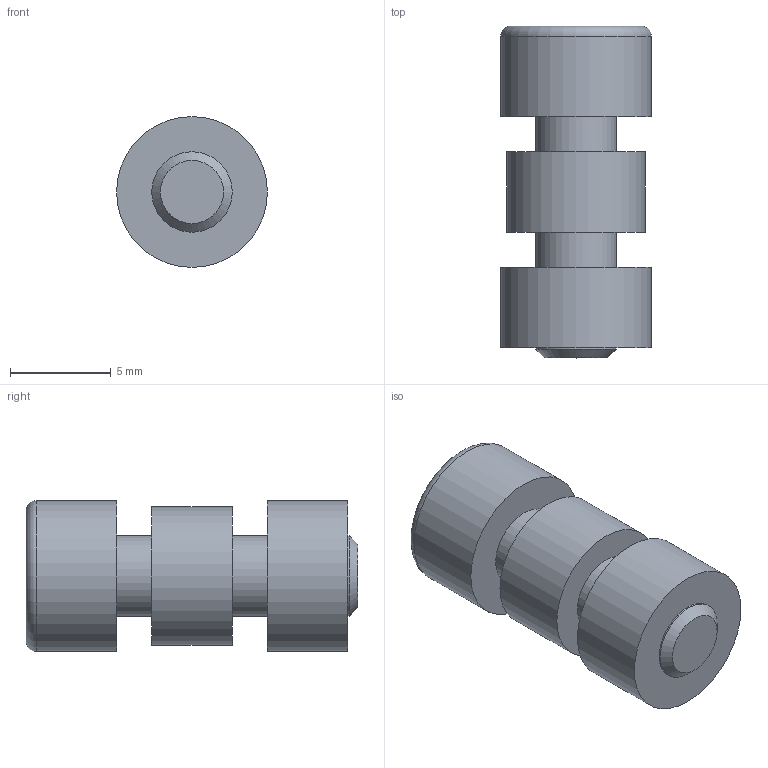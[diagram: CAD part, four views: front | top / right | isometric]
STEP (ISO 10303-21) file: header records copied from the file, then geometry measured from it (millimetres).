
FILE_DESCRIPTION( ( 'STEP AP203' ), '1' );
FILE_NAME( 'C:/Temp/Ganter_Step_05_03_2020/data/3_7/511_1/gn_511_1_s/Swivel clamp mounting GN 511.1-M4-16-S.stp', '2020-03-12T14:38:01', ( 'License CC BY-ND 4.0' ), ( 'CADENAS' ), ' ', 'PARTsolutions', ' ' );
FILE_SCHEMA( ( 'CONFIG_CONTROL_DESIGN' ) );
Length unit declared in the file: millimetre
Products named in the file (1): _Swivel clamp mounting GN 511.1-M4-16-S
Bounding box: 7.5 x 16.5 x 7.5 mm (x, y, z)
Volume: 557.5 mm3; surface area: 550.7 mm2
Topology: 1 solids, 1 shells, 22 faces, 41 edges, 27 vertices
Faces by surface type: plane 14, cylinder 6, cone 1, torus 1
Full cylindrical faces by diameter (mm): 4 x3, 6.9 x1, 7.5 x2
Entity records: 546 total; most frequent: DIRECTION 92, CARTESIAN_POINT 81, ORIENTED_EDGE 64, AXIS2_PLACEMENT_3D 37, EDGE_LOOP 36, EDGE_CURVE 32, FACE_OUTER_BOUND 29, VERTEX_POINT 26
